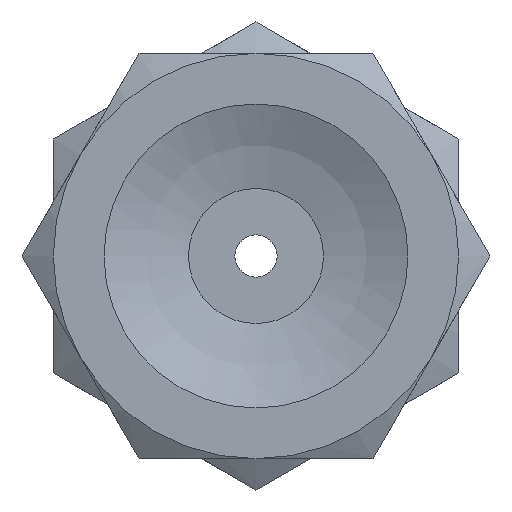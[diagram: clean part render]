
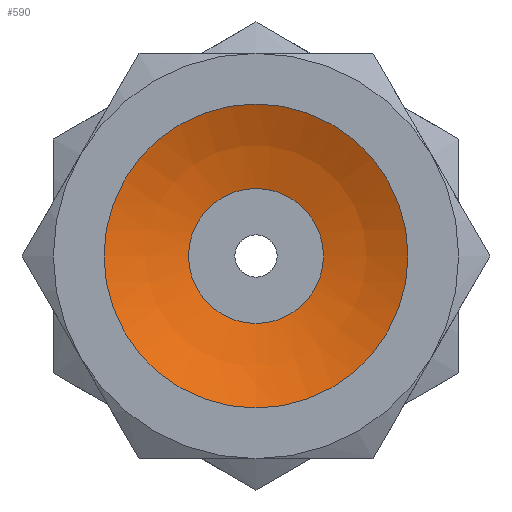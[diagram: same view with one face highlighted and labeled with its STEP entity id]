
A CAD part, front view. The second image highlights one B-rep face of the part: STEP entity #590.
In plain terms, the highlighted spherical face has radius 10.203 mm.
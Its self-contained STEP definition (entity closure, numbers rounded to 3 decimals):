
#590=ADVANCED_FACE('',(#871,#872),#873,.F.);
#871=FACE_OUTER_BOUND('',#1237,.T.);
#872=FACE_OUTER_BOUND('',#1238,.T.);
#873=SPHERICAL_SURFACE('',#1239,10.203);
#1237=EDGE_LOOP('',(#1926));
#1238=EDGE_LOOP('',(#1927));
#1239=AXIS2_PLACEMENT_3D('',#1928,#1929,#1930);
#1926=ORIENTED_EDGE('',*,*,#2375,.T.);
#1927=ORIENTED_EDGE('',*,*,#2376,.F.);
#1928=CARTESIAN_POINT('',(0.,-9.157,0.));
#1929=DIRECTION('',(0.0,-1.0,0.));
#1930=DIRECTION('',(1.0,0.0,0.0));
#2375=EDGE_CURVE('',#2695,#2695,#2696,.T.);
#2376=EDGE_CURVE('',#2697,#2697,#2698,.T.);
#2695=VERTEX_POINT('',#3251);
#2696=CIRCLE('',#3252,4.5);
#2697=VERTEX_POINT('',#3253);
#2698=CIRCLE('',#3254,2.);
#3251=CARTESIAN_POINT('',(0.0,0.,-4.5));
#3252=AXIS2_PLACEMENT_3D('',#3680,#3681,#3682);
#3253=CARTESIAN_POINT('',(0.0,0.848,-2.));
#3254=AXIS2_PLACEMENT_3D('',#3683,#3684,#3685);
#3680=CARTESIAN_POINT('',(0.0,0.,0.0));
#3681=DIRECTION('',(0.0,-1.0,0.));
#3682=DIRECTION('',(0.0,0.,-1.0));
#3683=CARTESIAN_POINT('',(0.0,0.848,0.0));
#3684=DIRECTION('',(0.0,-1.0,0.));
#3685=DIRECTION('',(0.0,0.,-1.0));
